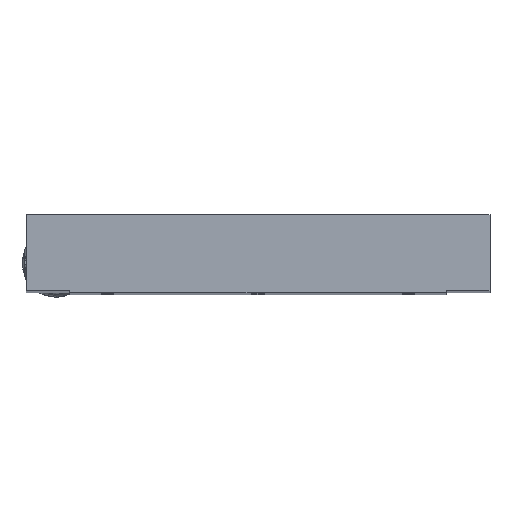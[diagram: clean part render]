
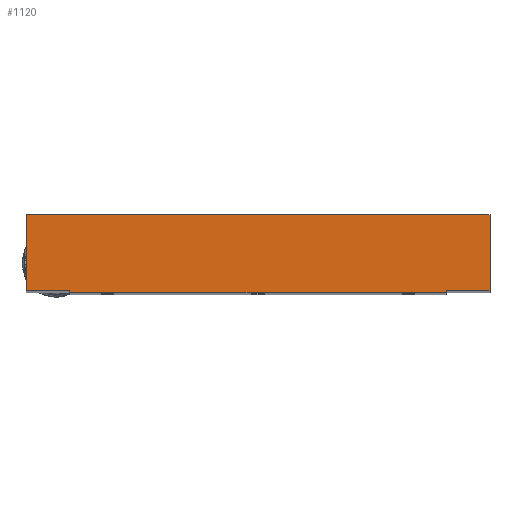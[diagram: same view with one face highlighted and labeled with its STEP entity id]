
A CAD part, top view. The second image highlights one B-rep face of the part: STEP entity #1120.
In plain terms, the highlighted planar face has unit normal (0, 0, 1).
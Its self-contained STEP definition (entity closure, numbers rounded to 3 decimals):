
#265=DIRECTION('',(0.,-1.,0.));
#266=VECTOR('',#265,30.34);
#267=CARTESIAN_POINT('',(-92.5,31.24,434.));
#268=LINE('',#267,#266);
#269=DIRECTION('',(-1.,0.,0.));
#270=VECTOR('',#269,185.);
#271=CARTESIAN_POINT('',(92.5,31.24,434.));
#272=LINE('',#271,#270);
#273=DIRECTION('',(0.,1.,0.));
#274=VECTOR('',#273,30.34);
#275=CARTESIAN_POINT('',(92.5,0.9,434.));
#276=LINE('',#275,#274);
#277=DIRECTION('',(1.,0.,0.));
#278=VECTOR('',#277,17.5);
#279=CARTESIAN_POINT('',(75.,0.9,434.));
#280=LINE('',#279,#278);
#281=DIRECTION('',(0.,1.,0.));
#282=VECTOR('',#281,0.9);
#283=CARTESIAN_POINT('',(75.,0.,434.));
#284=LINE('',#283,#282);
#285=DIRECTION('',(1.,0.,0.));
#286=VECTOR('',#285,150.);
#287=CARTESIAN_POINT('',(-75.,0.,434.));
#288=LINE('',#287,#286);
#289=DIRECTION('',(0.,-1.,0.));
#290=VECTOR('',#289,0.9);
#291=CARTESIAN_POINT('',(-75.,0.9,434.));
#292=LINE('',#291,#290);
#293=DIRECTION('',(1.,0.,0.));
#294=VECTOR('',#293,17.5);
#295=CARTESIAN_POINT('',(-92.5,0.9,434.));
#296=LINE('',#295,#294);
#673=CARTESIAN_POINT('',(-92.5,31.24,434.));
#674=CARTESIAN_POINT('',(-92.5,0.9,434.));
#675=VERTEX_POINT('',#673);
#676=VERTEX_POINT('',#674);
#677=CARTESIAN_POINT('',(-75.,0.9,434.));
#678=VERTEX_POINT('',#677);
#679=CARTESIAN_POINT('',(-75.,0.,434.));
#680=VERTEX_POINT('',#679);
#681=CARTESIAN_POINT('',(75.,0.,434.));
#682=VERTEX_POINT('',#681);
#683=CARTESIAN_POINT('',(75.,0.9,434.));
#684=VERTEX_POINT('',#683);
#685=CARTESIAN_POINT('',(92.5,0.9,434.));
#686=VERTEX_POINT('',#685);
#687=CARTESIAN_POINT('',(92.5,31.24,434.));
#688=VERTEX_POINT('',#687);
#1105=CARTESIAN_POINT('',(0.,0.,434.));
#1106=DIRECTION('',(0.,0.,1.));
#1107=DIRECTION('',(1.,0.,0.));
#1108=AXIS2_PLACEMENT_3D('',#1105,#1106,#1107);
#1109=PLANE('',#1108);
#1110=ORIENTED_EDGE('',*,*,#893,.F.);
#1111=ORIENTED_EDGE('',*,*,#908,.F.);
#1112=ORIENTED_EDGE('',*,*,#922,.F.);
#1113=ORIENTED_EDGE('',*,*,#936,.F.);
#1114=ORIENTED_EDGE('',*,*,#950,.F.);
#1115=ORIENTED_EDGE('',*,*,#964,.F.);
#1116=ORIENTED_EDGE('',*,*,#1086,.F.);
#1117=ORIENTED_EDGE('',*,*,#1099,.F.);
#1118=EDGE_LOOP('',(#1110,#1111,#1112,#1113,#1114,#1115,#1116,#1117));
#1119=FACE_OUTER_BOUND('',#1118,.F.);
#1120=ADVANCED_FACE('',(#1119),#1109,.T.);
#893=EDGE_CURVE('',#675,#676,#268,.T.);
#908=EDGE_CURVE('',#688,#675,#272,.T.);
#922=EDGE_CURVE('',#686,#688,#276,.T.);
#936=EDGE_CURVE('',#684,#686,#280,.T.);
#950=EDGE_CURVE('',#682,#684,#284,.T.);
#964=EDGE_CURVE('',#680,#682,#288,.T.);
#1086=EDGE_CURVE('',#678,#680,#292,.T.);
#1099=EDGE_CURVE('',#676,#678,#296,.T.);
